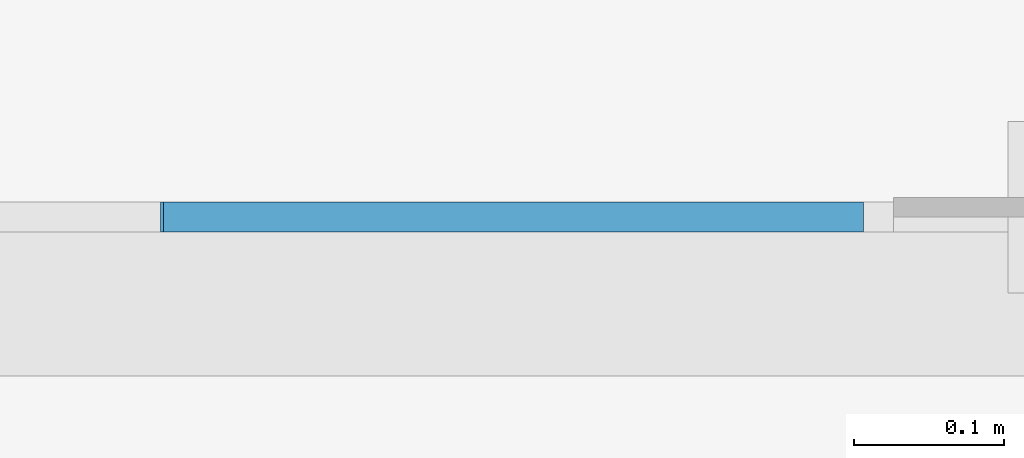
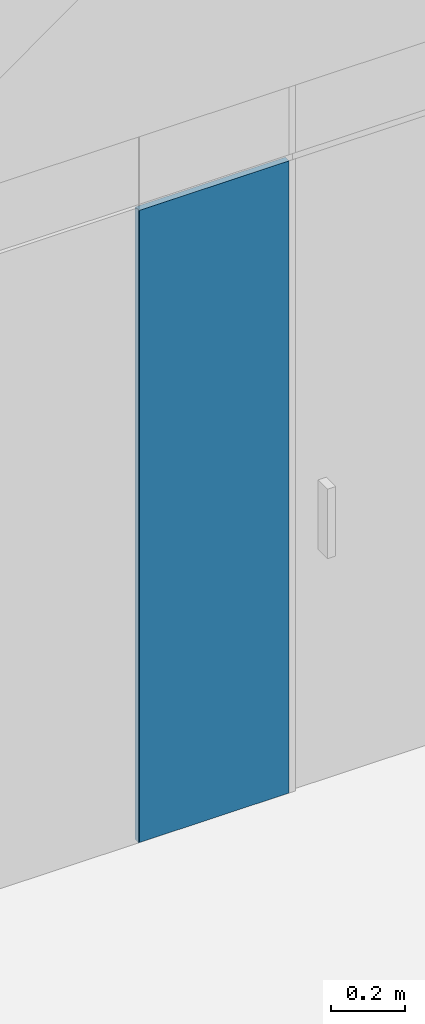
# One storey, part 26 of 73: 2 plates, 1 element without a shape of its own.
"""IFC2X3 building model written with IfcOpenShell, lengths in millimetres."""

from ifc_helpers import new_model, entity, si_unit, converted_unit, derived_unit, direction, frame, origin, origin_2d_with_axis, place, context, subcontext, project, spatial, rectangle, extrude, source, transform, mapped, material, layer, layer_set, layer_usage, type_object, type_shapes, element, aggregate, save


model = new_model("IFC2X3")

# Units and contexts
model_context = context("Model", 3, precision=0.01, world=origin(), true_north=direction((6.12303176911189e-17, 1.0)))
body_context = subcontext(model_context, "Body", "Model", "MODEL_VIEW")
ifc_project = project(units=[si_unit("LENGTHUNIT", "METRE", prefix="MILLI"), si_unit("AREAUNIT", "SQUARE_METRE"), si_unit("VOLUMEUNIT", "CUBIC_METRE"), converted_unit("PLANEANGLEUNIT", "DEGREE", entity("IfcRatioMeasure", 0.0174532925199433), si_unit("PLANEANGLEUNIT", "RADIAN"), dimensions=[0, 0, 0, 0, 0, 0, 0]), si_unit("MASSUNIT", "GRAM", prefix="KILO"), derived_unit("MASSDENSITYUNIT", [(si_unit("MASSUNIT", "GRAM", prefix="KILO"), 1), (si_unit("LENGTHUNIT", "METRE"), -3)]), si_unit("TIMEUNIT", "SECOND"), si_unit("FREQUENCYUNIT", "HERTZ"), si_unit("THERMODYNAMICTEMPERATUREUNIT", "DEGREE_CELSIUS"), derived_unit("THERMALTRANSMITTANCEUNIT", [(si_unit("MASSUNIT", "GRAM", prefix="KILO"), 1), (si_unit("THERMODYNAMICTEMPERATUREUNIT", "KELVIN"), -1), (si_unit("TIMEUNIT", "SECOND"), -3)]), derived_unit("VOLUMETRICFLOWRATEUNIT", [(si_unit("LENGTHUNIT", "METRE"), 3), (si_unit("TIMEUNIT", "SECOND"), -1)]), si_unit("ELECTRICCURRENTUNIT", "AMPERE"), si_unit("ELECTRICVOLTAGEUNIT", "VOLT"), si_unit("POWERUNIT", "WATT"), si_unit("FORCEUNIT", "NEWTON", prefix="KILO"), si_unit("ILLUMINANCEUNIT", "LUX"), si_unit("LUMINOUSFLUXUNIT", "LUMEN"), si_unit("LUMINOUSINTENSITYUNIT", "CANDELA"), derived_unit("USERDEFINED", [(si_unit("MASSUNIT", "GRAM", prefix="KILO"), -1), (si_unit("LENGTHUNIT", "METRE"), -2), (si_unit("TIMEUNIT", "SECOND"), 3), (si_unit("LUMINOUSFLUXUNIT", "LUMEN"), 1)]), derived_unit("LINEARVELOCITYUNIT", [(si_unit("LENGTHUNIT", "METRE"), 1), (si_unit("TIMEUNIT", "SECOND"), -1)]), si_unit("PRESSUREUNIT", "PASCAL"), derived_unit("USERDEFINED", [(si_unit("LENGTHUNIT", "METRE"), -2), (si_unit("MASSUNIT", "GRAM", prefix="KILO"), 1), (si_unit("TIMEUNIT", "SECOND"), -2)])], contexts=[model_context])

# Site, building, storey
site_placement = place(None, frame((-151.875543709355, 2715.0, 0.0)))
site = spatial("IfcSite", under=ifc_project, at=site_placement, Name="Surface", CompositionType="ELEMENT")
building_placement = place(site_placement, origin())
building = spatial("IfcBuilding", under=site, at=building_placement, CompositionType="ELEMENT")
storey_placement = place(building_placement, frame((0.0, 0.0, 6730.43000000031)))
storey = spatial("IfcBuildingStorey", under=building, at=storey_placement, Name="3 korrus", CompositionType="ELEMENT", Elevation=6730.43000000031)

# Curtain wall, plates
curtain_wall_type = type_object("IfcCurtainWallType", Name="Curtain Wall:Klaassein KLS-17", PredefinedType="NOTDEFINED")
curtain_wall_placement = place(storey_placement, frame((0.0, 0.0, -6730.43000000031)))
curtain_wall = element("IfcCurtainWall", 1, at=curtain_wall_placement, inside=storey, type_object=curtain_wall_type, Name="Curtain Wall:Klaassein KLS-17", ObjectType="Curtain Wall:Klaassein KLS-17")
ifc_material = material(Name="<Unnamed>")
ifc_layer = layer(ifc_material, 20.0)
ifc_layer_set = layer_set([ifc_layer], Name="Curtain Wall:Klaassein KLS-01")
ifc_layer_usage_1 = layer_usage(ifc_layer_set, "AXIS3", "POSITIVE", 0.0)
plate_type_1 = type_object("IfcPlateType", Name="Glazed", PredefinedType="CURTAIN_PANEL", material=ifc_layer_set)
shared_shape_1 = source(origin(), body_context, "Body", "SweptSolid", [
    extrude(rectangle(XDim=20.0, YDim=1.99999969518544, at=origin_2d_with_axis()), frame((0.0, 0.0, 0.0), z_axis=(0.0, 0.0, 1.0), x_axis=(0.0, 1.0, 0.0)), (0.0, 0.0, 1.0), 2080.0),
])
type_shapes(plate_type_1, [shared_shape_1])
plate_1_placement = place(curtain_wall_placement, frame((13914.5647265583, 4355.04493399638, 6730.43000000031)))
plate_1 = element("IfcPlate", 2, at=plate_1_placement, type_object=plate_type_1, material=ifc_layer_usage_1, Name="System Panel:Glazed", ObjectType="Glazed", context=body_context, shape_type="MappedRepresentation", body=[
    mapped(shared_shape_1, transform((0.0, 0.0, 0.0), scale=1.0)),
])
ifc_layer_usage_2 = layer_usage(ifc_layer_set, "AXIS3", "POSITIVE", 0.0)
plate_type_2 = type_object("IfcPlateType", Name="Glazed", PredefinedType="CURTAIN_PANEL", material=ifc_layer_set)
shared_shape_2 = source(origin(), body_context, "Body", "SweptSolid", [
    extrude(rectangle(XDim=20.0, YDim=466.000000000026, at=origin_2d_with_axis()), frame((0.0, 0.0, 0.0), z_axis=(0.0, 0.0, 1.0), x_axis=(0.0, 1.0, 0.0)), (0.0, 0.0, 1.0), 2080.0),
])
type_shapes(plate_type_2, [shared_shape_2])
plate_2_placement = place(curtain_wall_placement, frame((14148.5647264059, 4355.04493399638, 6730.43000000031)))
plate_2 = element("IfcPlate", 3, at=plate_2_placement, type_object=plate_type_2, material=ifc_layer_usage_2, Name="System Panel:Glazed", ObjectType="Glazed", context=body_context, shape_type="MappedRepresentation", body=[
    mapped(shared_shape_2, transform((0.0, 0.0, 0.0), scale=1.0)),
])
aggregate(curtain_wall, [plate_1, plate_2])

save(model, "model.ifc")
